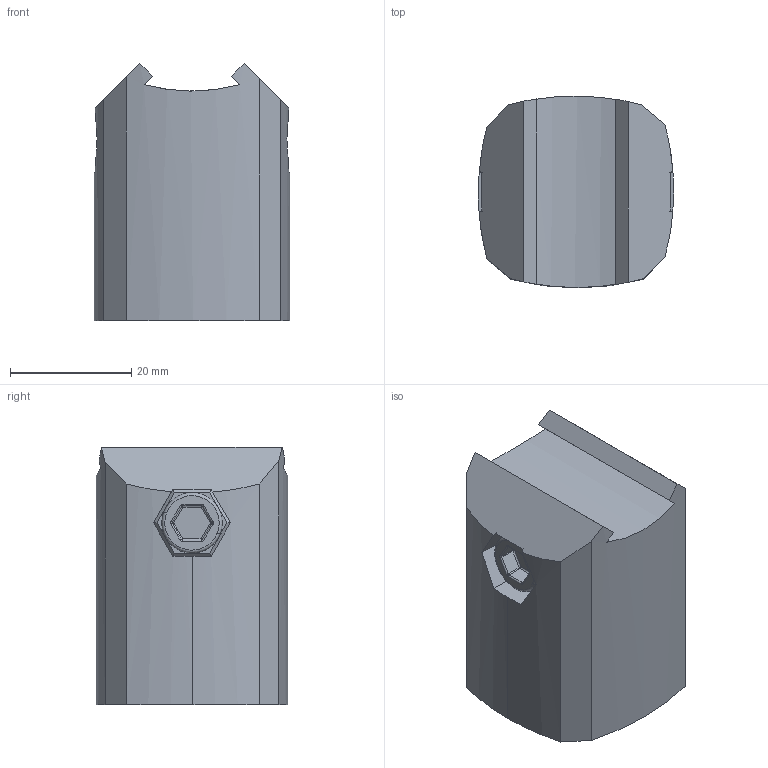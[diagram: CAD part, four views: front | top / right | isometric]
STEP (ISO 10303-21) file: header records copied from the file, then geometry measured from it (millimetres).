
FILE_DESCRIPTION (( 'STEP AP203' ), '1' );
FILE_NAME ('1101.STEP', '2016-05-29T11:47:06', ( 'RosInstal-MKM' ), ( '' ), 'SwSTEP 2.0', 'SolidWorks 2014', '' );
FILE_SCHEMA (( 'CONFIG_CONTROL_DESIGN' ));
Length unit declared in the file: millimetre
Products named in the file (4): 櫻蠉錪1; ãàéêà1; 鎔艜1; 1101
Assembly tree (3 placements, depth 2):
  1101
    櫻蠉錪1
    ãàéêà1
    鎔艜1
Bounding box: 32.26 x 31.64 x 42.5 mm (x, y, z)
Volume: 20544.8 mm3; surface area: 10841.2 mm2
Topology: 3 solids, 3 shells, 115 faces, 282 edges, 168 vertices
Faces by surface type: plane 56, cylinder 40, torus 11, sphere 6, cone 2
Entity records: 3741 total; most frequent: CARTESIAN_POINT 659, DIRECTION 587, ORIENTED_EDGE 552, EDGE_CURVE 276, AXIS2_PLACEMENT_3D 216, VERTEX_POINT 168, VECTOR 155, LINE 155
